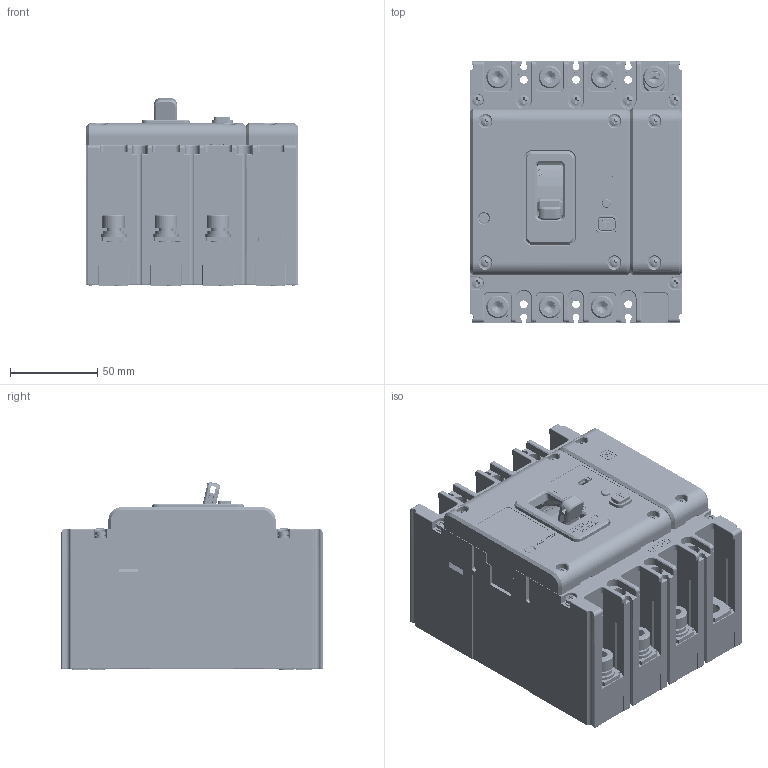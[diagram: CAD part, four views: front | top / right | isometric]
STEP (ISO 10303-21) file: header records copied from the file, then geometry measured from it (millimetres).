
FILE_DESCRIPTION((''),'2;1');
FILE_NAME('2258013600_ASM','2017-12-20T',('yan.shen'),(''),'PRO/ENGINEER BY PARAMETRIC TECHNOLOGY CORPORATION, 2015440','PRO/ENGINEER BY PARAMETRIC TECHNOLOGY CORPORATION, 2015440','');
FILE_SCHEMA(('CONFIG_CONTROL_DESIGN'));
Products named in the file (52): 8024032900; GB_T809_M3_5X12; 5024037800_ASM; 8551018600; 5551030000_ASM; 8510020900; 5420039200_ASM; 5420039500_ASM; 5615028400_ASM; 8510020800; 5420039100_ASM; 5420039400_ASM; 5615028300_ASM; 8510021000; 5420039300_ASM; 5420039600_ASM; 5615028500_ASM; 8585065200; JB_T8151_1-6X170; NS_TUBEL225-1_5X8; 5510014600_ASM; 6176013400_ASM; 6760011600_ASM; 8742105400; 8750031500; 8760013600; 8750031400; 8253059200; 8865077900_AF0; 8865078000_AF0; 5253022500_ASM; 7010600401L_GB_T70_1_M8X16; 7090370701K_GB_T93_8; GB_T97_4_8; 5850008100_ASM; 8315063300; 8322007300; 8282073000_AF2; 8253059300; 8315063400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
Assembly tree (91 placements, depth 7):
  2258013600_ASM
    6760011600_ASM
      5024037800_ASM
        8024032900
        GB_T809_M3_5X12  x7
      5551030000_ASM  x4
        8551018600
      6176013400_ASM
        5615028400_ASM
          5420039500_ASM
            5420039200_ASM
              8510020900
        5615028300_ASM
          5420039400_ASM
            5420039100_ASM
              8510020800
        5615028500_ASM
          5420039600_ASM
            5420039300_ASM
              8510021000
        5510014600_ASM
          8585065200
          JB_T8151_1-6X170
          NS_TUBEL225-1_5X8
    8742105400  x4
    8750031500  x4
    8760013600  x8
    8750031400
    5253022500_ASM
      8253059200
      8865077900_AF0
      8865078000_AF0
    5850008100_ASM  x8
      7010600401L_GB_T70_1_M8X16
      7090370701K_GB_T93_8
      GB_T97_4_8
    5315044900_ASM
      8315063300
      8322007300
      8282073000_AF2
      8253059300
      8315063400
      8253063200
      8315059200
      7020100411_GB13806_2_ST2_9X8_A  x6
    6716014700_ASM
      8253063000
    5850007200_ASM  x7
      GB_T823-M3_5X30
      7090300201_GB_T93_3
      8950019500
    8300048900
Bounding box: 122 x 150 x 107.95 mm (x, y, z)
Volume: 544303.1 mm3; surface area: 422210.4 mm2
Topology: 96 solids, 133 shells, 7449 faces, 19722 edges, 12652 vertices
Faces by surface type: plane 4657, cylinder 1900, cone 260, torus 222, extrusion 208, bspline 157, sphere 45
Entity records: 197335 total; most frequent: CARTESIAN_POINT 52271, ORIENTED_EDGE 30834, DIRECTION 28693, EDGE_CURVE 15435, VECTOR 11467, LINE 11259, VERTEX_POINT 9950, AXIS2_PLACEMENT_3D 8613
